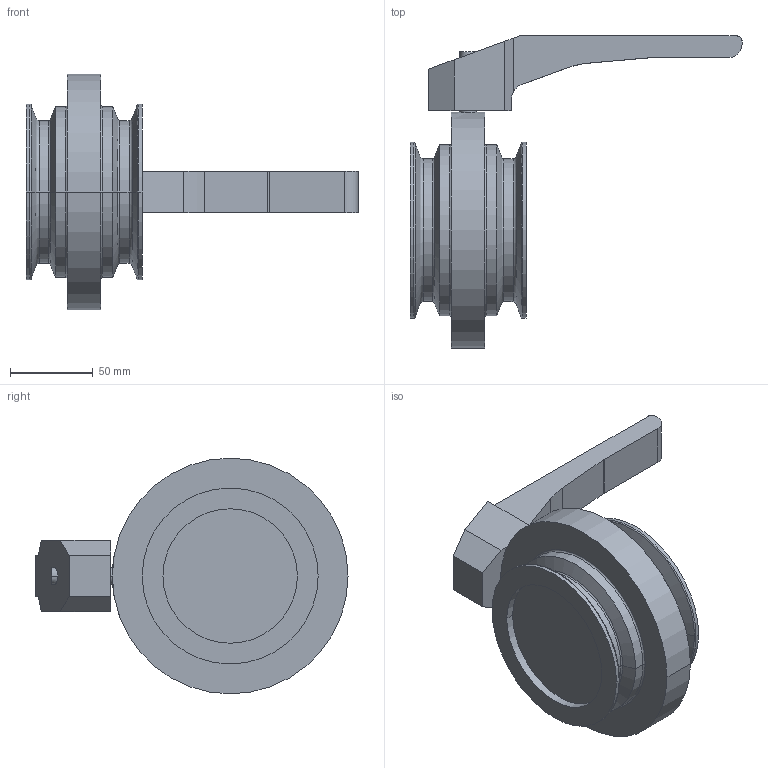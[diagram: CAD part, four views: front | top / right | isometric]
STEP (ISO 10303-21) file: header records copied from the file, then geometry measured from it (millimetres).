
FILE_DESCRIPTION(('OneSpaceDesigner STEP Export'),'2;1');
FILE_NAME('SV1-80-H-12CL.stp','2007-04-19T14:47:39',(''),(''),'OneSpace Designer STEP processor for AP214 (Solid Model)','OneSpace Modeling 15.00 06-Feb-2007 (C) CoCreate Software GmbH','');
FILE_SCHEMA(('AUTOMOTIVE_DESIGN { 1 0 10303 214 1 1 1 1 }'));
Length unit declared in the file: millimetre
Products named in the file (3): SV1-80-H-12CL; Handhebel-SV-40-100; SV1-80-H-12CL-vereint
Assembly tree (2 placements, depth 2):
  SV1-80-H-12CL-vereint
    Handhebel-SV-40-100
    SV1-80-H-12CL
Bounding box: 200 x 188 x 142 mm (x, y, z)
Volume: 755794.3 mm3; surface area: 87250 mm2
Topology: 2 solids, 2 shells, 76 faces, 167 edges, 100 vertices
Faces by surface type: cylinder 27, plane 25, torus 16, cone 8
Entity records: 2289 total; most frequent: CARTESIAN_POINT 689, ORIENTED_EDGE 334, DIRECTION 303, EDGE_CURVE 167, AXIS2_PLACEMENT_3D 113, VERTEX_POINT 100, EDGE_LOOP 81, VECTOR 77
